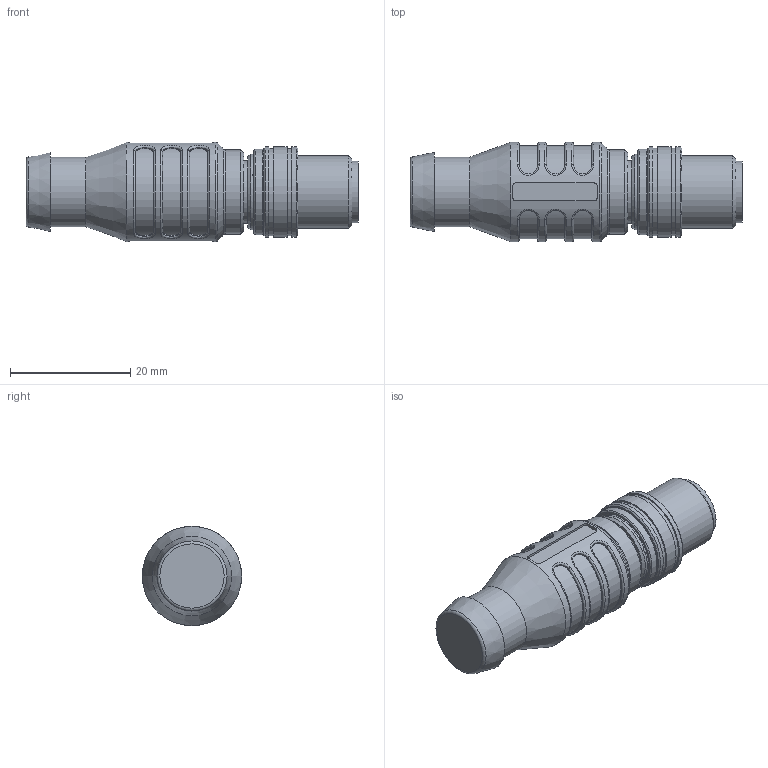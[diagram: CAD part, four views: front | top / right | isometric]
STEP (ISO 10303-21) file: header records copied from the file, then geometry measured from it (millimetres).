
FILE_DESCRIPTION (( 'STEP AP203' ), '1' );
FILE_NAME ('RSS.step', '2019-01-09T13:39:00', ( '' ), ( '' ), 'SwSTEP 2.0', 'SolidWorks 2017', '' );
FILE_SCHEMA (( 'CONFIG_CONTROL_DESIGN' ));
Length unit declared in the file: millimetre
Products named in the file (1): RSS
Bounding box: 55.2 x 16.5 x 16.5 mm (x, y, z)
Volume: 7909 mm3; surface area: 3376.4 mm2
Topology: 1 solids, 1 shells, 133 faces, 318 edges, 205 vertices
Faces by surface type: cylinder 50, plane 42, torus 21, bspline 12, cone 8
Full cylindrical faces by diameter (mm): 8.3 x1, 10.2 x1, 10.4 x1, 11.6 x1, 12 x1, 12.5 x1, 13.2 x1, 14 x1, 14.2 x1, 14.5 x2, 15 x3, 16.5 x1
Entity records: 4957 total; most frequent: CARTESIAN_POINT 2189, DIRECTION 534, ORIENTED_EDGE 520, EDGE_CURVE 260, AXIS2_PLACEMENT_3D 232, EDGE_LOOP 183, VERTEX_POINT 179, FACE_OUTER_BOUND 154
